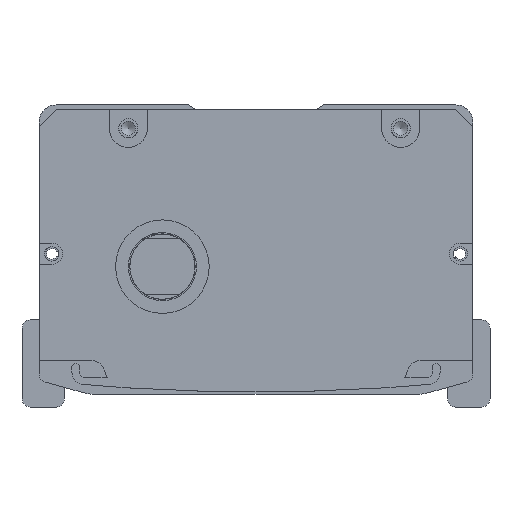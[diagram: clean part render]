
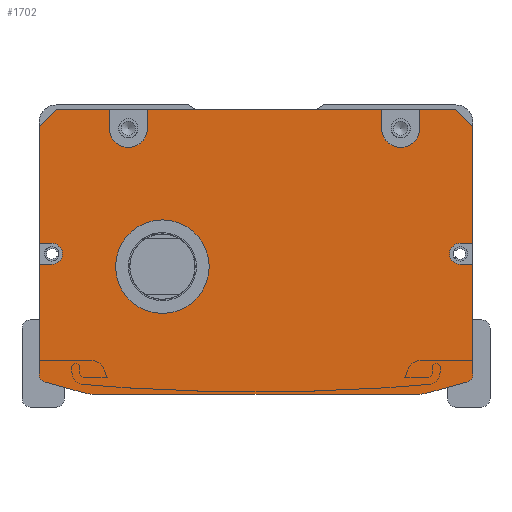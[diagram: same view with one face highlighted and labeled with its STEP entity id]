
A CAD part, front view. The second image highlights one B-rep face of the part: STEP entity #1702.
In plain terms, the highlighted planar face has unit normal (0, -1, 0).
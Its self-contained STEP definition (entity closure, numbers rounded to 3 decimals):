
#1014=FACE_BOUND('',#3192,.T.);
#1015=FACE_BOUND('',#3193,.T.);
#1702=ADVANCED_FACE('',(#1014,#1015),#2327,.F.);
#2327=PLANE('',#12171);
#3192=EDGE_LOOP('',(#5623,#5624,#5625,#5626,#5627,#5628,#5629,#5630,#5631,
#5632,#5633,#5634,#5635,#5636,#5637,#5638,#5639,#5640,#5641,#5642,#5643,
#5644,#5645,#5646,#5647,#5648,#5649,#5650));
#3193=EDGE_LOOP('',(#5651));
#4199=CIRCLE('',#12162,4.5);
#4200=CIRCLE('',#12163,4.5);
#4201=CIRCLE('',#12164,2.5);
#4202=CIRCLE('',#12165,2.);
#4203=CIRCLE('',#12166,10.);
#4204=CIRCLE('',#12167,10.);
#4205=CIRCLE('',#12168,2.);
#4206=CIRCLE('',#12169,2.5);
#4207=CIRCLE('',#12170,11.);
#5623=ORIENTED_EDGE('',*,*,#9032,.T.);
#5624=ORIENTED_EDGE('',*,*,#9452,.T.);
#5625=ORIENTED_EDGE('',*,*,#9453,.T.);
#5626=ORIENTED_EDGE('',*,*,#9454,.F.);
#5627=ORIENTED_EDGE('',*,*,#9455,.T.);
#5628=ORIENTED_EDGE('',*,*,#9456,.F.);
#5629=ORIENTED_EDGE('',*,*,#9457,.T.);
#5630=ORIENTED_EDGE('',*,*,#9458,.F.);
#5631=ORIENTED_EDGE('',*,*,#9459,.T.);
#5632=ORIENTED_EDGE('',*,*,#9460,.F.);
#5633=ORIENTED_EDGE('',*,*,#9461,.T.);
#5634=ORIENTED_EDGE('',*,*,#9462,.T.);
#5635=ORIENTED_EDGE('',*,*,#9064,.T.);
#5636=ORIENTED_EDGE('',*,*,#9463,.T.);
#5637=ORIENTED_EDGE('',*,*,#9464,.T.);
#5638=ORIENTED_EDGE('',*,*,#9465,.T.);
#5639=ORIENTED_EDGE('',*,*,#9060,.T.);
#5640=ORIENTED_EDGE('',*,*,#9466,.T.);
#5641=ORIENTED_EDGE('',*,*,#9467,.T.);
#5642=ORIENTED_EDGE('',*,*,#9468,.T.);
#5643=ORIENTED_EDGE('',*,*,#9469,.T.);
#5644=ORIENTED_EDGE('',*,*,#9470,.T.);
#5645=ORIENTED_EDGE('',*,*,#9471,.T.);
#5646=ORIENTED_EDGE('',*,*,#9472,.T.);
#5647=ORIENTED_EDGE('',*,*,#9036,.T.);
#5648=ORIENTED_EDGE('',*,*,#9473,.T.);
#5649=ORIENTED_EDGE('',*,*,#9474,.T.);
#5650=ORIENTED_EDGE('',*,*,#9475,.T.);
#5651=ORIENTED_EDGE('',*,*,#9476,.T.);
#7876=VERTEX_POINT('',#16794);
#7877=VERTEX_POINT('',#16796);
#7880=VERTEX_POINT('',#16802);
#7881=VERTEX_POINT('',#16804);
#7902=VERTEX_POINT('',#16849);
#7903=VERTEX_POINT('',#16851);
#7906=VERTEX_POINT('',#16857);
#7907=VERTEX_POINT('',#16859);
#8174=VERTEX_POINT('',#17660);
#8175=VERTEX_POINT('',#17662);
#8176=VERTEX_POINT('',#17664);
#8177=VERTEX_POINT('',#17666);
#8178=VERTEX_POINT('',#17668);
#8179=VERTEX_POINT('',#17670);
#8180=VERTEX_POINT('',#17672);
#8181=VERTEX_POINT('',#17674);
#8182=VERTEX_POINT('',#17676);
#8183=VERTEX_POINT('',#17678);
#8184=VERTEX_POINT('',#17681);
#8185=VERTEX_POINT('',#17683);
#8186=VERTEX_POINT('',#17686);
#8187=VERTEX_POINT('',#17688);
#8188=VERTEX_POINT('',#17690);
#8189=VERTEX_POINT('',#17692);
#8190=VERTEX_POINT('',#17694);
#8191=VERTEX_POINT('',#17696);
#8192=VERTEX_POINT('',#17699);
#8193=VERTEX_POINT('',#17701);
#8194=VERTEX_POINT('',#17704);
#9032=EDGE_CURVE('',#7877,#7876,#10493,.T.);
#9036=EDGE_CURVE('',#7881,#7880,#10497,.T.);
#9060=EDGE_CURVE('',#7903,#7902,#10521,.T.);
#9064=EDGE_CURVE('',#7907,#7906,#10525,.T.);
#9452=EDGE_CURVE('',#7876,#8174,#10758,.T.);
#9453=EDGE_CURVE('',#8174,#8175,#10759,.T.);
#9454=EDGE_CURVE('',#8176,#8175,#10760,.T.);
#9455=EDGE_CURVE('',#8176,#8177,#4199,.T.);
#9456=EDGE_CURVE('',#8178,#8177,#10761,.T.);
#9457=EDGE_CURVE('',#8178,#8179,#10762,.T.);
#9458=EDGE_CURVE('',#8180,#8179,#10763,.T.);
#9459=EDGE_CURVE('',#8180,#8181,#4200,.T.);
#9460=EDGE_CURVE('',#8182,#8181,#10764,.T.);
#9461=EDGE_CURVE('',#8182,#8183,#10765,.T.);
#9462=EDGE_CURVE('',#8183,#7907,#10766,.T.);
#9463=EDGE_CURVE('',#7906,#8184,#10767,.T.);
#9464=EDGE_CURVE('',#8184,#8185,#4201,.T.);
#9465=EDGE_CURVE('',#8185,#7903,#10768,.T.);
#9466=EDGE_CURVE('',#7902,#8186,#4202,.T.);
#9467=EDGE_CURVE('',#8186,#8187,#10769,.T.);
#9468=EDGE_CURVE('',#8187,#8188,#4203,.T.);
#9469=EDGE_CURVE('',#8188,#8189,#10770,.T.);
#9470=EDGE_CURVE('',#8189,#8190,#4204,.T.);
#9471=EDGE_CURVE('',#8190,#8191,#10771,.T.);
#9472=EDGE_CURVE('',#8191,#7881,#4205,.T.);
#9473=EDGE_CURVE('',#7880,#8192,#10772,.T.);
#9474=EDGE_CURVE('',#8192,#8193,#4206,.T.);
#9475=EDGE_CURVE('',#8193,#7877,#10773,.T.);
#9476=EDGE_CURVE('',#8194,#8194,#4207,.T.);
#10493=LINE('',#16795,#11146);
#10497=LINE('',#16803,#11150);
#10521=LINE('',#16850,#11174);
#10525=LINE('',#16858,#11178);
#10758=LINE('',#17659,#11411);
#10759=LINE('',#17661,#11412);
#10760=LINE('',#17663,#11413);
#10761=LINE('',#17667,#11414);
#10762=LINE('',#17669,#11415);
#10763=LINE('',#17671,#11416);
#10764=LINE('',#17675,#11417);
#10765=LINE('',#17677,#11418);
#10766=LINE('',#17679,#11419);
#10767=LINE('',#17680,#11420);
#10768=LINE('',#17684,#11421);
#10769=LINE('',#17687,#11422);
#10770=LINE('',#17691,#11423);
#10771=LINE('',#17695,#11424);
#10772=LINE('',#17698,#11425);
#10773=LINE('',#17702,#11426);
#11146=VECTOR('',#13404,1.);
#11150=VECTOR('',#13408,1.);
#11174=VECTOR('',#13434,1.);
#11178=VECTOR('',#13438,1.);
#11411=VECTOR('',#14273,1.);
#11412=VECTOR('',#14274,1.);
#11413=VECTOR('',#14275,1.);
#11414=VECTOR('',#14278,1.);
#11415=VECTOR('',#14279,1.);
#11416=VECTOR('',#14280,1.);
#11417=VECTOR('',#14283,1.);
#11418=VECTOR('',#14284,1.);
#11419=VECTOR('',#14285,1.);
#11420=VECTOR('',#14286,1.);
#11421=VECTOR('',#14289,1.);
#11422=VECTOR('',#14292,1.);
#11423=VECTOR('',#14295,1.);
#11424=VECTOR('',#14298,1.);
#11425=VECTOR('',#14301,1.);
#11426=VECTOR('',#14304,1.);
#12162=AXIS2_PLACEMENT_3D('',#17665,#14276,#14277);
#12163=AXIS2_PLACEMENT_3D('',#17673,#14281,#14282);
#12164=AXIS2_PLACEMENT_3D('',#17682,#14287,#14288);
#12165=AXIS2_PLACEMENT_3D('',#17685,#14290,#14291);
#12166=AXIS2_PLACEMENT_3D('',#17689,#14293,#14294);
#12167=AXIS2_PLACEMENT_3D('',#17693,#14296,#14297);
#12168=AXIS2_PLACEMENT_3D('',#17697,#14299,#14300);
#12169=AXIS2_PLACEMENT_3D('',#17700,#14302,#14303);
#12170=AXIS2_PLACEMENT_3D('',#17703,#14305,#14306);
#12171=AXIS2_PLACEMENT_3D('',#17705,#14307,#14308);
#13404=DIRECTION('',(0.,0.,1.));
#13408=DIRECTION('',(0.,0.,1.));
#13434=DIRECTION('',(0.,0.,-1.));
#13438=DIRECTION('',(0.,0.,-1.));
#14273=DIRECTION('',(-0.707,0.,0.707));
#14274=DIRECTION('',(-1.,0.,0.));
#14275=DIRECTION('',(0.,0.,1.));
#14276=DIRECTION('',(0.,1.,0.));
#14277=DIRECTION('',(0.,0.,1.));
#14278=DIRECTION('',(0.,0.,-1.));
#14279=DIRECTION('',(-1.,0.,0.));
#14280=DIRECTION('',(0.,0.,1.));
#14281=DIRECTION('',(0.,1.,0.));
#14282=DIRECTION('',(0.,0.,1.));
#14283=DIRECTION('',(0.,0.,-1.));
#14284=DIRECTION('',(-1.,0.,0.));
#14285=DIRECTION('',(-0.707,0.,-0.707));
#14286=DIRECTION('',(1.,0.,0.));
#14287=DIRECTION('',(0.,1.,0.));
#14288=DIRECTION('',(0.,0.,1.));
#14289=DIRECTION('',(-1.,0.,0.));
#14290=DIRECTION('',(0.,-1.,0.));
#14291=DIRECTION('',(0.,0.,1.));
#14292=DIRECTION('',(0.963,0.,-0.269));
#14293=DIRECTION('',(0.,-1.,0.));
#14294=DIRECTION('',(0.,0.,1.));
#14295=DIRECTION('',(1.,0.,0.));
#14296=DIRECTION('',(0.,-1.,0.));
#14297=DIRECTION('',(0.,0.,-1.));
#14298=DIRECTION('',(0.963,0.,0.269));
#14299=DIRECTION('',(0.,-1.,0.));
#14300=DIRECTION('',(0.,0.,-1.));
#14301=DIRECTION('',(-1.,0.,0.));
#14302=DIRECTION('',(0.,1.,0.));
#14303=DIRECTION('',(0.,0.,1.));
#14304=DIRECTION('',(1.,0.,0.));
#14305=DIRECTION('',(0.,1.,0.));
#14306=DIRECTION('',(0.,0.,1.));
#14307=DIRECTION('',(0.,1.,0.));
#14308=DIRECTION('',(1.,0.,0.));
#16794=CARTESIAN_POINT('',(47.808,-757.5,-5.));
#16795=CARTESIAN_POINT('',(47.808,-757.5,-1.));
#16796=CARTESIAN_POINT('',(47.808,-757.5,-32.5));
#16802=CARTESIAN_POINT('',(47.808,-757.5,-37.5));
#16803=CARTESIAN_POINT('',(47.808,-757.5,-1.));
#16804=CARTESIAN_POINT('',(47.808,-757.5,-63.212));
#16849=CARTESIAN_POINT('',(-54.192,-757.5,-63.212));
#16850=CARTESIAN_POINT('',(-54.192,-757.5,-62.));
#16851=CARTESIAN_POINT('',(-54.192,-757.5,-37.5));
#16857=CARTESIAN_POINT('',(-54.192,-757.5,-32.5));
#16858=CARTESIAN_POINT('',(-54.192,-757.5,-62.));
#16859=CARTESIAN_POINT('',(-54.192,-757.5,-5.));
#17659=CARTESIAN_POINT('',(43.808,-757.5,-1.));
#17660=CARTESIAN_POINT('',(43.808,-757.5,-1.));
#17661=CARTESIAN_POINT('',(-3.192,-757.5,-1.));
#17662=CARTESIAN_POINT('',(35.308,-757.5,-1.));
#17663=CARTESIAN_POINT('',(35.308,-757.5,-1.));
#17664=CARTESIAN_POINT('',(35.308,-757.5,-5.5));
#17665=CARTESIAN_POINT('',(30.808,-757.5,-5.5));
#17666=CARTESIAN_POINT('',(26.308,-757.5,-5.5));
#17667=CARTESIAN_POINT('',(26.308,-757.5,-1.));
#17668=CARTESIAN_POINT('',(26.308,-757.5,-1.));
#17669=CARTESIAN_POINT('',(-54.192,-757.5,-1.));
#17670=CARTESIAN_POINT('',(-28.692,-757.5,-1.));
#17671=CARTESIAN_POINT('',(-28.692,-757.5,-3.5));
#17672=CARTESIAN_POINT('',(-28.692,-757.5,-5.5));
#17673=CARTESIAN_POINT('',(-33.192,-757.5,-5.5));
#17674=CARTESIAN_POINT('',(-37.692,-757.5,-5.5));
#17675=CARTESIAN_POINT('',(-37.692,-757.5,-1.));
#17676=CARTESIAN_POINT('',(-37.692,-757.5,-1.));
#17677=CARTESIAN_POINT('',(-54.192,-757.5,-1.));
#17678=CARTESIAN_POINT('',(-50.192,-757.5,-1.));
#17679=CARTESIAN_POINT('',(-54.192,-757.5,-5.));
#17680=CARTESIAN_POINT('',(-3.192,-757.5,-32.5));
#17681=CARTESIAN_POINT('',(-51.192,-757.5,-32.5));
#17682=CARTESIAN_POINT('',(-51.192,-757.5,-35.));
#17683=CARTESIAN_POINT('',(-51.192,-757.5,-37.5));
#17684=CARTESIAN_POINT('',(-3.192,-757.5,-37.5));
#17685=CARTESIAN_POINT('',(-52.192,-757.5,-63.212));
#17686=CARTESIAN_POINT('',(-52.731,-757.5,-65.138));
#17687=CARTESIAN_POINT('',(-55.807,-757.5,-64.279));
#17688=CARTESIAN_POINT('',(-43.809,-757.5,-67.631));
#17689=CARTESIAN_POINT('',(-41.118,-757.5,-58.));
#17690=CARTESIAN_POINT('',(-41.118,-757.5,-68.));
#17691=CARTESIAN_POINT('',(-54.692,-757.5,-68.));
#17692=CARTESIAN_POINT('',(34.733,-757.5,-68.));
#17693=CARTESIAN_POINT('',(34.733,-757.5,-58.));
#17694=CARTESIAN_POINT('',(37.424,-757.5,-67.631));
#17695=CARTESIAN_POINT('',(49.422,-757.5,-64.279));
#17696=CARTESIAN_POINT('',(46.346,-757.5,-65.138));
#17697=CARTESIAN_POINT('',(45.808,-757.5,-63.212));
#17698=CARTESIAN_POINT('',(-3.192,-757.5,-37.5));
#17699=CARTESIAN_POINT('',(44.808,-757.5,-37.5));
#17700=CARTESIAN_POINT('',(44.808,-757.5,-35.));
#17701=CARTESIAN_POINT('',(44.808,-757.5,-32.5));
#17702=CARTESIAN_POINT('',(-3.192,-757.5,-32.5));
#17703=CARTESIAN_POINT('',(-25.192,-757.5,-38.));
#17704=CARTESIAN_POINT('',(-25.192,-757.5,-27.));
#17705=CARTESIAN_POINT('',(-3.192,-757.5,-1.));
